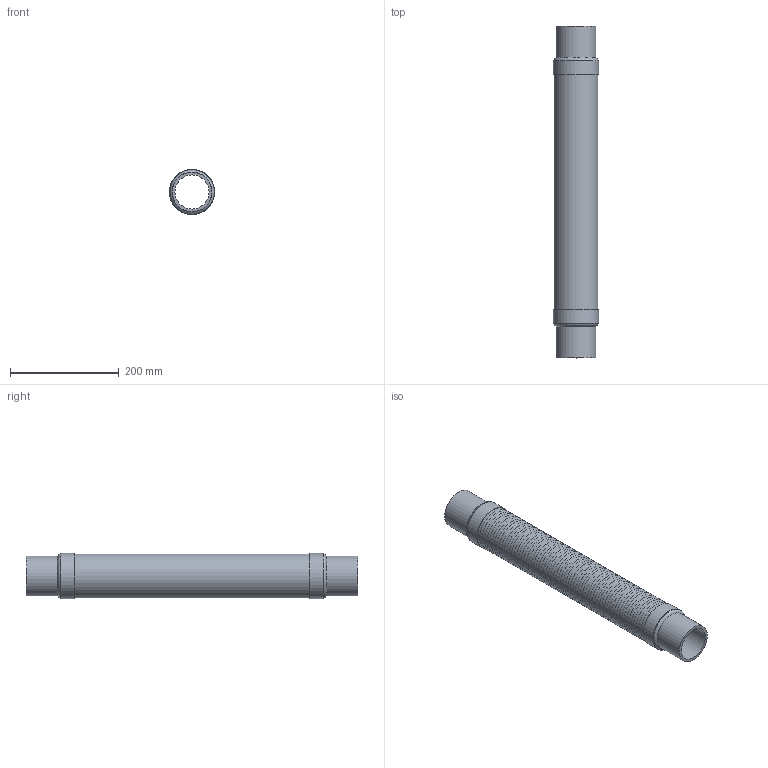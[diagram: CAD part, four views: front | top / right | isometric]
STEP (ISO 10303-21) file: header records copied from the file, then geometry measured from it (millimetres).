
FILE_DESCRIPTION((''),'2;1');
FILE_NAME('C:\2012_Work\Designs\MN\MN-2.5x24.stp','2013-08-09T17:39:14',('KShiels'),(''),'Autodesk Inventor 2012','Autodesk Inventor 2012','');
FILE_SCHEMA(('AUTOMOTIVE_DESIGN { 1 0 10303 214 1 1 1 1 }'));
Length unit declared in the file: inch
Products named in the file (6): MN-2; MN-2_Welds; A-30100-5-2; A-30100-5_2
Assembly tree (7 placements, depth 2):
  MN-2
    MN-2_Welds
    A-30100-5-2
    A-30100-5_2
    A-30100-5_2  x2
    A-30100-5_2  x2
Bounding box: 82.81 x 609.6 x 82.79 mm (x, y, z)
Volume: 324311.1 mm3; surface area: 995164.1 mm2
Topology: 8 solids, 8 shells, 638 faces, 968 edges, 648 vertices
Faces by surface type: plane 318, torus 306, cylinder 12, bspline 2
Full cylindrical faces by diameter (mm): 62.713 x2, 73.025 x4, 79.756 x1, 80.467 x3, 82.848 x2
Entity records: 13358 total; most frequent: DIRECTION 2534, CARTESIAN_POINT 2413, ORIENTED_EDGE 1272, AXIS2_PLACEMENT_3D 1267, EDGE_LOOP 1258, EDGE_CURVE 636, VERTEX_POINT 634, FACE_OUTER_BOUND 630
